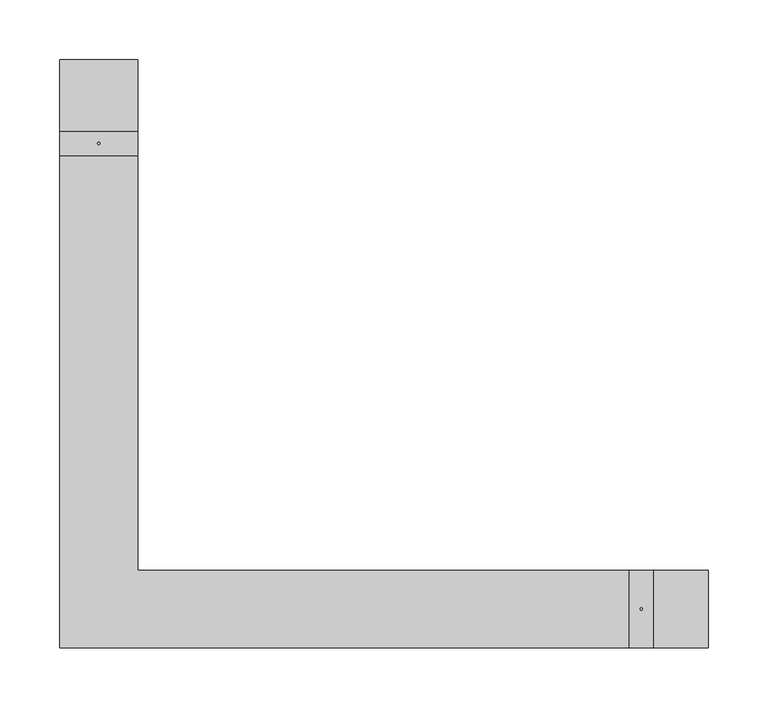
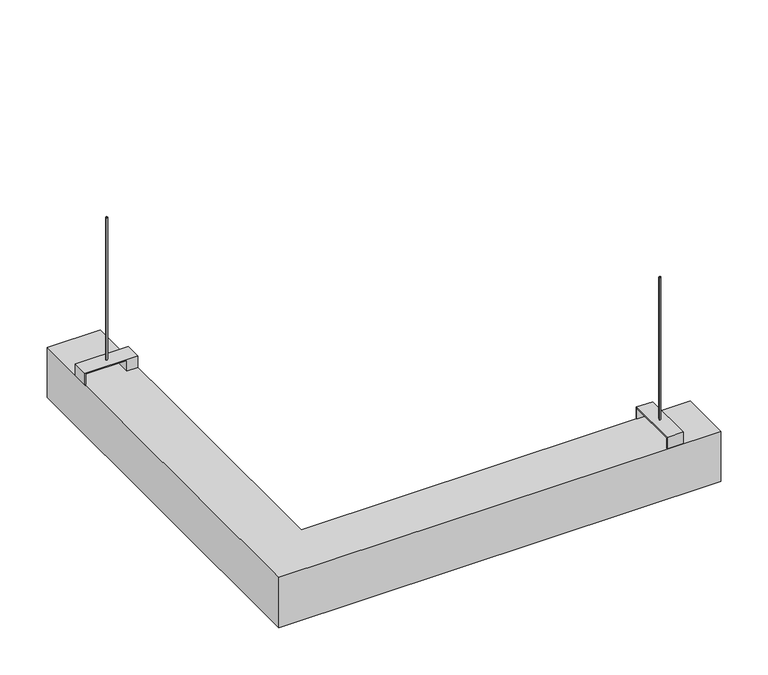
"""IFC4 building model written with IfcOpenShell, lengths in millimetres: light fixture geometry, GENILED_Светильник светодиодный_Trade Linear L Advanced : Trade Linear Advanced 492-542x65x60 20Вт Deep Черный 4000К."""

from ifc_helpers import new_model, si_unit, point, frame, frame_2d, origin, place, context, project, spatial, polyline, circle_curve, trimmed, segment, composite_curve, outline, extrude, source, transform, mapped, element, save


def light_fixture_b40a6a63(model_context):
    return source(origin(), model_context, "Body", "SweptSolid", [
        extrude(outline(polyline([(0.0, 65.0), (15.0, 65.0), (15.0, 0.0), (0.0, 0.0), (0.0, 1.0), (14.0, 1.0), (14.0, 51.5), (0.0, 51.5), (0.0, 65.0)])), frame((0.0, 412.0, 0.0), z_axis=(0.0, 1.0, 0.0), x_axis=(0.0, 0.0, 1.0)), (0.0, 0.0, 1.0), 20.0),
        extrude(outline(polyline([(542.0, 65.0), (542.0, 0.0), (0.0, 0.0), (0.0, 492.0), (65.0, 492.0), (65.0, 65.0), (542.0, 65.0)])), frame((0.0, 0.0, -65.0), z_axis=(0.0, 0.0, 1.0), x_axis=(1.0, 0.0, 0.0)), (0.0, 0.0, 1.0), 65.0),
        extrude(outline(polyline([(65.0, 0.0), (64.0, 0.0), (64.0, 14.0), (1.0, 14.0), (1.0, 0.0), (0.0, 0.0), (0.0, 15.0), (65.0, 15.0), (65.0, 0.0)])), frame((476.0, 0.0, 0.0), z_axis=(1.0, 0.0, 0.0), x_axis=(0.0, 1.0, 0.0)), (0.0, 0.0, 1.0), 20.0),
        extrude(outline(composite_curve([segment(trimmed(circle_curve(frame_2d((32.5, 422.0)), 1.0), [point((31.5, 422.0))], [point((33.5, 422.0))], False, "CARTESIAN"), True, "CONTINUOUS"), segment(trimmed(circle_curve(frame_2d((32.5, 422.0)), 1.0), [point((33.5, 422.0))], [point((31.5, 422.0))], False, "CARTESIAN"), True, "CONTINUOUS")], self_intersect=False)), frame((0.0, 0.0, 15.0), z_axis=(0.0, 0.0, 1.0), x_axis=(1.0, 0.0, 0.0)), (0.0, 0.0, 1.0), 185.0),
        extrude(outline(composite_curve([segment(trimmed(circle_curve(frame_2d((486.0, 32.5)), 1.0), [point((485.0, 32.5))], [point((487.0, 32.5))], False, "CARTESIAN"), True, "CONTINUOUS"), segment(trimmed(circle_curve(frame_2d((486.0, 32.5)), 1.0), [point((487.0, 32.5))], [point((485.0, 32.5))], False, "CARTESIAN"), True, "CONTINUOUS")], self_intersect=False)), frame((0.0, 0.0, 15.0), z_axis=(0.0, 0.0, 1.0), x_axis=(1.0, 0.0, 0.0)), (0.0, 0.0, 1.0), 185.0),
    ])


if __name__ == "__main__":
    model = new_model("IFC4")
    model_context = context("Model", 3, world=origin())
    ifc_project = project(units=[si_unit("LENGTHUNIT", "METRE", prefix="MILLI")], contexts=[model_context])
    site = spatial("IfcSite", under=ifc_project)
    building = spatial("IfcBuilding", under=site)
    placement = place(None, origin())
    light_fixture_shape = light_fixture_b40a6a63(model_context)
    element("IfcLightFixture", 1, ObjectType="GENILED_Светильник светодиодный_Trade Linear L Advanced : Trade Linear Advanced 492-542x65x60 20Вт Deep Черный 4000К", at=placement, inside=building, context=model_context, shape_type="MappedRepresentation", body=[
        mapped(light_fixture_shape, transform((0.0, 0.0, 0.0), x_axis=(1.0, 0.0, 0.0), y_axis=(0.0, 1.0, 0.0), z_axis=(0.0, 0.0, 1.0))),
    ])
    save(model, "model.ifc")
